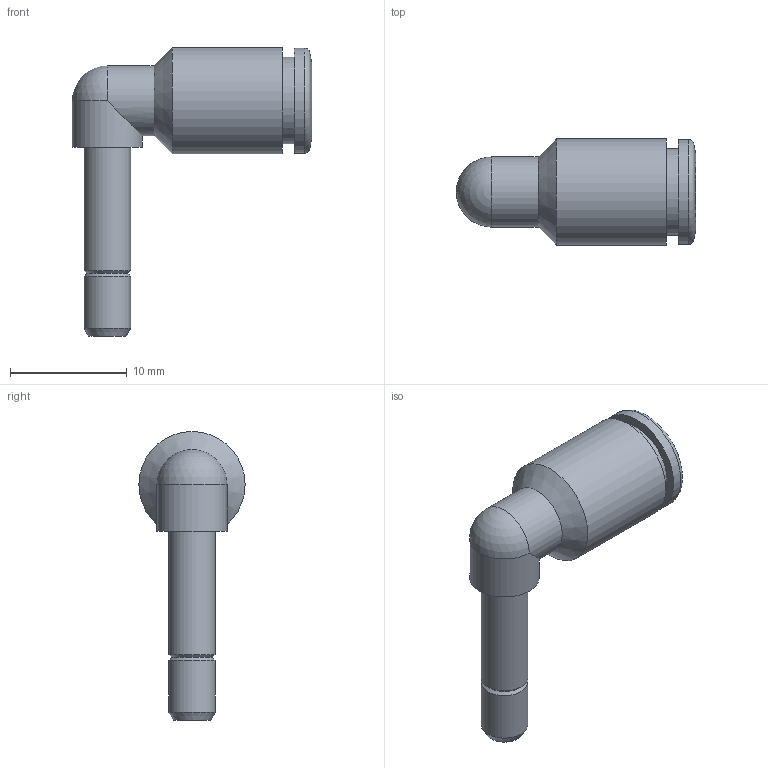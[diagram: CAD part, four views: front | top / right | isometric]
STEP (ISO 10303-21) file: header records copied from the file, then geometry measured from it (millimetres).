
FILE_DESCRIPTION(('Bauteilbeschreibung','HiCAD-Model','HiCAD-STEP-TRANSLATION','Bauteilbeschreibung'),'2;1');
FILE_NAME('B:/ABGLEICH/ZEICHNUNGEN/STEP FÜR INTERNET/STEP/IPSO 047/204701_IPSO_047_4.STP','2012-03-16T10:42:38+00:00',('Konstrukteur'),('Konstrukteur Firma GmbH'),' HiCAD neXt 2008, Step 3.1.1401.2J ','HiCAD neXt 2008','confidential');
FILE_SCHEMA(('AUTOMOTIVE_DESIGN { 1 2 10303 214 0 1 1 1 }'));
Length unit declared in the file: millimetre
Products named in the file (3): A04701_IPSO_047_4; R204701_N; DR4_1_NEU
Assembly tree (2 placements, depth 2):
  A04701_IPSO_047_4
    R204701_N
    DR4_1_NEU
Bounding box: 20.5 x 9.1 x 24.75 mm (x, y, z)
Volume: 813 mm3; surface area: 1521.4 mm2
Topology: 2 solids, 2 shells, 37 faces, 79 edges, 47 vertices
Faces by surface type: cylinder 14, cone 14, plane 7, sphere 1, torus 1
Full cylindrical faces by diameter (mm): 2 x1, 2.6 x1, 4 x2, 4.1 x2, 6 x2, 6.4 x1, 7.3 x1, 7.4 x1, 7.6 x1, 9 x1, 9.1 x1
Entity records: 1721 total; most frequent: CARTESIAN_POINT 812, DIRECTION 156, AXIS2_PLACEMENT_3D 78, ORIENTED_EDGE 78, EDGE_LOOP 73, COLOUR_RGB 39, EDGE_CURVE 39, PRESENTATION_STYLE_ASSIGNMENT 39
